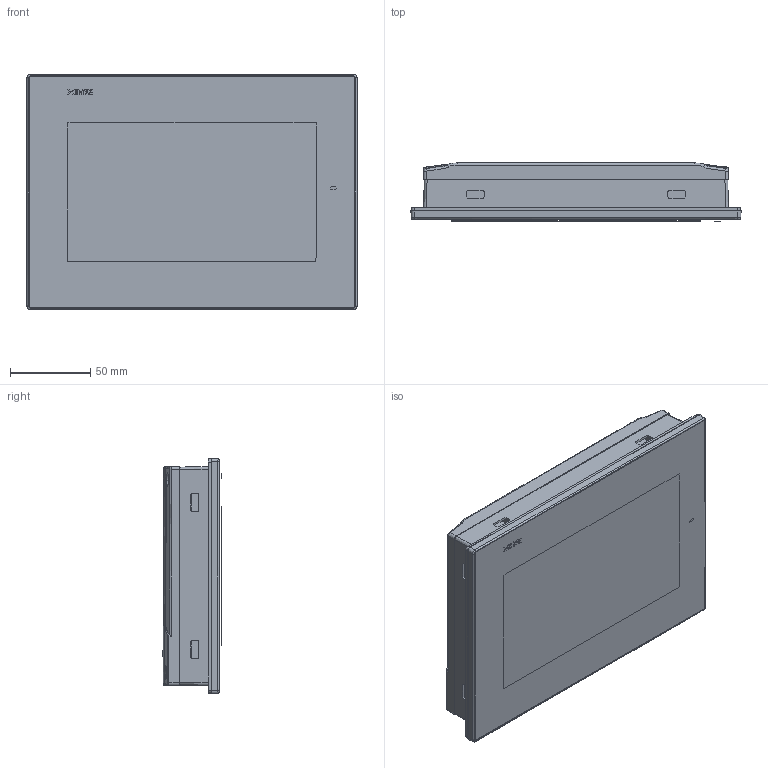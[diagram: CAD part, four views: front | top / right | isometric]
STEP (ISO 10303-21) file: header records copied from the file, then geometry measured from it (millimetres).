
FILE_DESCRIPTION(/* description */ (''),/* implementation_level */ '2;1');
FILE_NAME(/* name */ 'TS3-700',/* time_stamp */ '2023-04-10T17:10:12+08:00',/* author */ (''),/* organization */ (''),/* preprocessor_version */ 'ST-DEVELOPER v16.5',/* originating_system */ '',/* authorisation */ '');
FILE_SCHEMA (('AUTOMOTIVE_DESIGN'));
Products named in the file (2): Document; 图块 01
Assembly tree (1 placements, depth 2):
  Document
    图块 01
Bounding box: 206 x 36.41 x 147 mm (x, y, z)
Volume: 820758.4 mm3; surface area: 182135.3 mm2
Topology: 128 solids, 141 shells, 4630 faces, 12806 edges, 8620 vertices
Faces by surface type: plane 2337, bspline 2293
Entity records: 206421 total; most frequent: CARTESIAN_POINT 127055, ORIENTED_EDGE 25593, EDGE_CURVE 12804, B_SPLINE_CURVE_WITH_KNOTS 9937, VERTEX_POINT 8620, EDGE_LOOP 4901, ADVANCED_FACE 4630, FACE_OUTER_BOUND 4630
